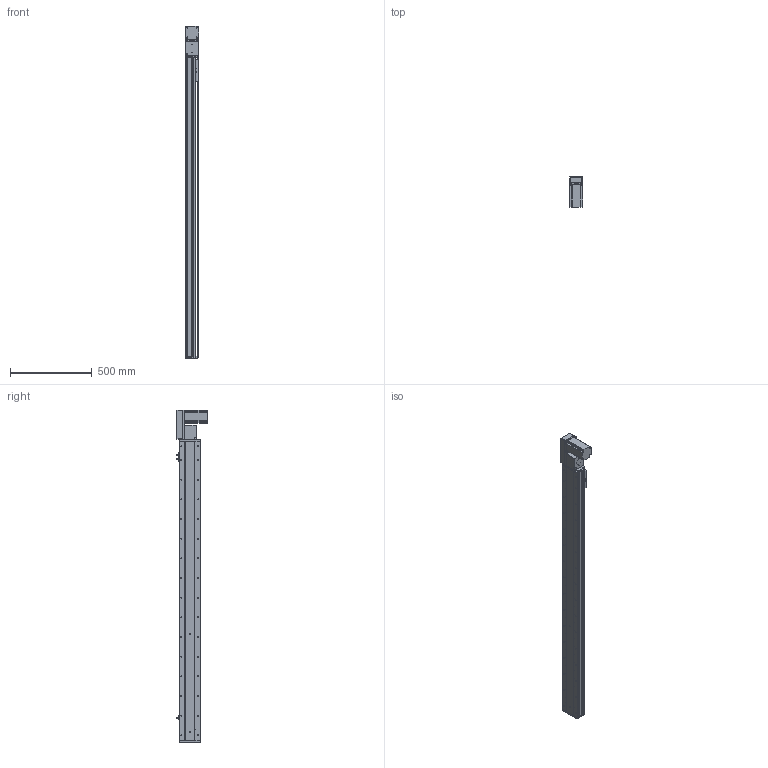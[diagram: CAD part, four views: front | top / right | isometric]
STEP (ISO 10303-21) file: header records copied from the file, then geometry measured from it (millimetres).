
FILE_DESCRIPTION (( 'STEP AP214' ), '1' );
FILE_NAME ('KSD130B-S1600-MRB-CM.STEP', '2019-09-21T07:14:37', ( '微软用户' ), ( '微软中国' ), 'SwSTEP 2.0', 'SolidWorks 2014', '' );
FILE_SCHEMA (( 'AUTOMOTIVE_DESIGN' ));
Length unit declared in the file: millimetre
Products named in the file (12): KSD130B-S1600-MRB-CM; 台达ECMA－C20807AS伺服电机; 130宽模组保护罩上下左右折-同步带; 130宽模组马达安装板连板左右折同步带; 覜茼え100遵圉猾敕; U倰嫖萇EEㄜSX672; 130宽盖板半封闭同步带-1600行程; 130宽马达安装板同步带右-改镜向_默认<按加工>; 130宽马达安装板同步带半封闭; 130宽同步带安装座半封闭; 130宽端盖同步带半封闭; 130宽底板半封闭同步带-1600行程
Assembly tree (13 placements, depth 2):
  KSD130B-S1600-MRB-CM
    130宽底板半封闭同步带-1600行程
    130宽端盖同步带半封闭
    130宽同步带安装座半封闭
    130宽马达安装板同步带半封闭
    130宽马达安装板同步带右-改镜向_默认<按加工>
    130宽盖板半封闭同步带-1600行程
    U倰嫖萇EEㄜSX672  x3
    覜茼え100遵圉猾敕
    130宽模组马达安装板连板左右折同步带
    130宽模组保护罩上下左右折-同步带
    台达ECMA－C20807AS伺服电机
Bounding box: 81 x 184.8 x 2027 mm (x, y, z)
Volume: 6606530.4 mm3; surface area: 1858521.4 mm2
Topology: 14 solids, 14 shells, 1689 faces, 4901 edges, 3111 vertices
Faces by surface type: cylinder 828, plane 646, cone 215
Entity records: 57247 total; most frequent: CARTESIAN_POINT 11012, DIRECTION 8635, ORIENTED_EDGE 8358, EDGE_CURVE 4179, AXIS2_PLACEMENT_3D 3174, VERTEX_POINT 2735, LINE 2287, VECTOR 2287
